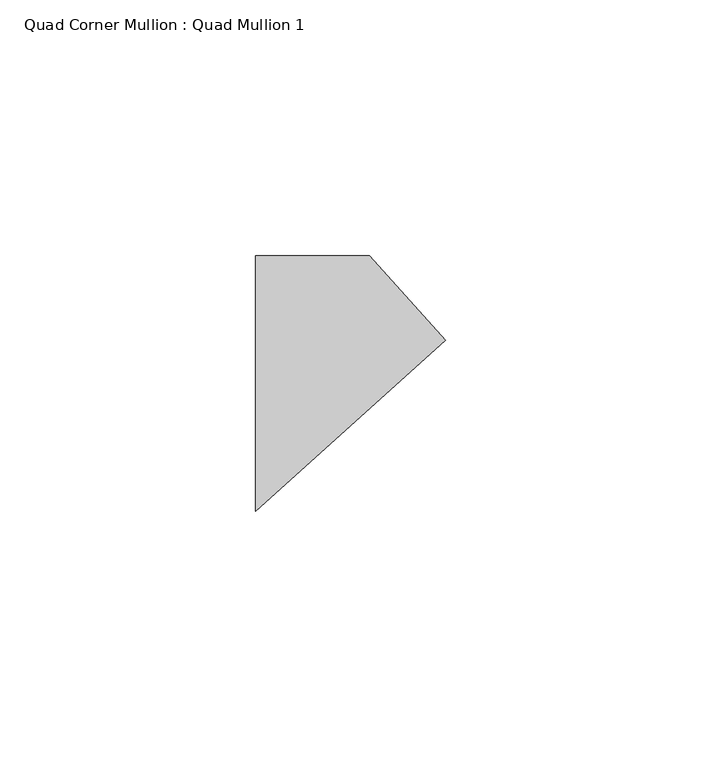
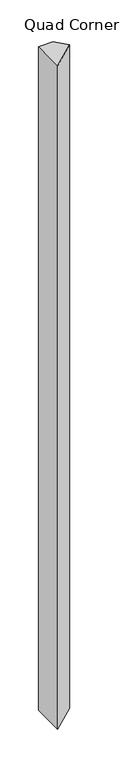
"""IFC4 building model written with IfcOpenShell, lengths in millimetres: member geometry, Quad Corner Mullion : Quad Mullion 1."""

from ifc_helpers import new_model, si_unit, frame, origin, place, context, project, spatial, polyline, outline, extrude, source, transform, mapped, element, save


def quad_corner_mullion_quad_mullion_1_8bf85f6b(model_context):
    return source(origin(), model_context, "Body", "SweptSolid", [
        extrude(outline(polyline([(26.0265241, 8.4565303), (-11.1307171, -25.0), (-11.1307171, 25.0), (11.1307171, 25.0), (26.0265241, 8.4565303)])), frame((0.0, 0.0, -1050.0), z_axis=(0.0, 0.0, 1.0), x_axis=(1.0, 0.0, 0.0)), (0.0, 0.0, 1.0), 1050.0),
    ])


if __name__ == "__main__":
    model = new_model("IFC4")
    model_context = context("Model", 3, world=origin())
    ifc_project = project(units=[si_unit("LENGTHUNIT", "METRE", prefix="MILLI")], contexts=[model_context])
    site = spatial("IfcSite", under=ifc_project)
    building = spatial("IfcBuilding", under=site)
    placement = place(None, origin())
    quad_corner_mullion_quad_mullion_1_shape = quad_corner_mullion_quad_mullion_1_8bf85f6b(model_context)
    element("IfcMember", 1, ObjectType="Quad Corner Mullion : Quad Mullion 1", at=placement, inside=building, context=model_context, shape_type="MappedRepresentation", body=[
        mapped(quad_corner_mullion_quad_mullion_1_shape, transform((0.0, 0.0, 0.0), x_axis=(1.0, 0.0, 0.0), y_axis=(0.0, 1.0, 0.0), z_axis=(0.0, 0.0, 1.0))),
    ])
    save(model, "model.ifc")
